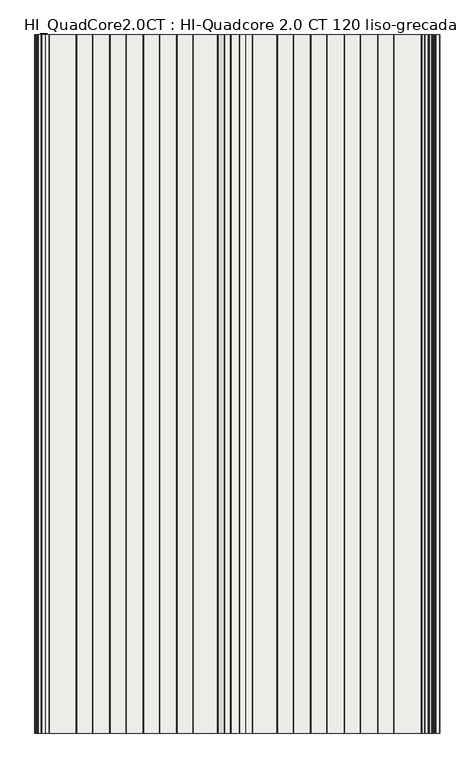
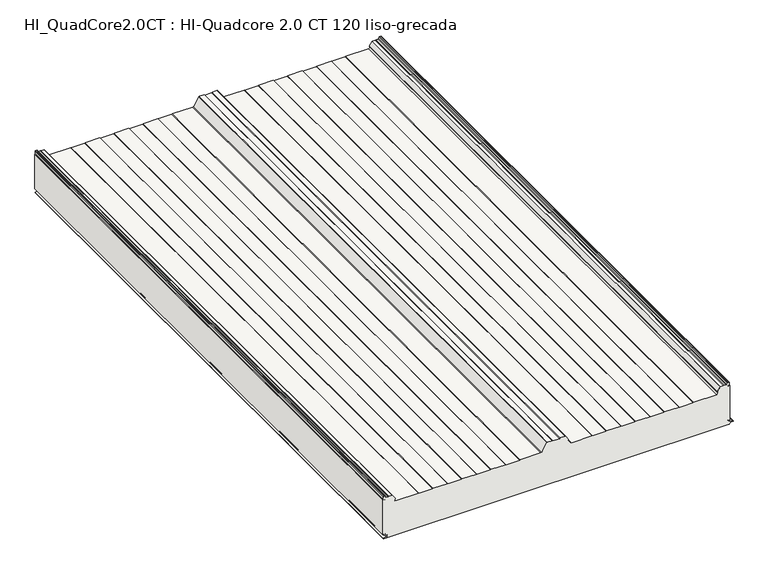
"""IFC4 building model written with IfcOpenShell, lengths in millimetres: slab geometry, HI_QuadCore2.0CT : HI-Quadcore 2.0 CT 120 liso-grecada."""

from ifc_helpers import new_model, si_unit, frame, origin, place, context, project, spatial, polyline, circle_curve, source, transform, mapped, element, save
from ifc_brep_helpers import plane_surface, cylinder_surface, revolved_surface, advanced_brep


def hi_quadcore2_0ct_hi_quadcore_2_0_ct_120_liso_grecada_d8a82dec(model_context):
    return source(origin(), model_context, "Body", "AdvancedBrep", [
        advanced_brep(
        [(5.1475465, 0.0, 135.7425833), (1.3824194, 0.0, 137.9163804), (0.0, 0.0, 137.9163804), (0.0, 0.0, 16.239302), (7.510215, 0.0, 16.239302), (7.510215, 0.0, 15.4391074), (3.6125693, 0.0, 15.4391074), (2.4319301, 0.0, 14.2584682), (3.4276302, 0.0, 13.0866965), (11.8278581, 0.0, 11.7547343), (11.7995989, 0.0, 4.4809044), (1.8467032, 0.0, 2.9844289), (2.0100062, 0.0, 0.8), (1147.9590685, 0.0, 0.8), (1149.3391392, 0.0, 2.1800708), (1152.5664905, 0.0, 5.8294074), (1160.7843221, 0.0, 6.8264698), (1160.7843299, 0.0, 9.4135286), (1150.8450446, 0.0, 10.6192254), (1147.8324398, 0.0, 14.0237344), (1147.2282701, 0.0, 15.44), (1142.7624398, 0.0, 15.44), (1142.7624398, 0.0, 16.239302), (1150.0, 0.0, 16.239302), (1150.0, 0.0, 137.9163804), (1148.8824194, 0.0, 137.9163804), (1145.1172924, 0.0, 135.7425833), (1144.7172924, 0.0, 136.4354036), (1148.5824194, 0.0, 138.6669358), (1148.5824194, 0.0, 148.1), (1147.4824194, 0.0, 149.2), (1143.8888221, 0.0, 149.2), (1142.8725546, 0.0, 148.5209518), (1141.0157992, 0.0, 144.0383476), (1138.8631598, 0.0, 142.6), (1132.1371875, 0.0, 142.6), (1130.4324194, 0.0, 141.8110374), (1128.7276514, 0.0, 142.6), (1119.4004541, 0.0, 142.6), (1118.4939153, 0.0, 142.1230469), (1109.1558806, 0.0, 128.5361221), (1109.356723, 0.0, 127.0692788), (1110.3070878, 0.0, 126.2744554), (1107.4852773, 0.0, 119.2), (1031.3816122, 0.0, 119.2), (1029.6495614, 0.0, 118.2), (984.6152775, 0.0, 118.2), (982.8832267, 0.0, 119.2), (935.3816122, 0.0, 119.2), (933.6495614, 0.0, 118.2), (888.6152775, 0.0, 118.2), (886.8832267, 0.0, 119.2), (839.3816122, 0.0, 119.2), (837.6495614, 0.0, 118.2), (792.6152775, 0.0, 118.2), (790.8832267, 0.0, 119.2), (743.3816122, 0.0, 119.2), (741.6495614, 0.0, 118.2), (696.6152775, 0.0, 118.2), (694.8832267, 0.0, 119.2), (625.9029123, 0.0, 119.2), (623.9344839, 0.0, 120.2833287), (605.9445057, 0.0, 148.6885573), (605.0152048, 0.0, 149.2), (588.8816122, 0.0, 149.2), (586.283536, 0.0, 147.7), (563.9813029, 0.0, 147.7), (561.3832267, 0.0, 149.2), (545.2496341, 0.0, 149.2), (544.3203331, 0.0, 148.6885573), (526.330355, 0.0, 120.2833287), (524.3619266, 0.0, 119.2), (455.3816122, 0.0, 119.2), (453.6495614, 0.0, 118.2), (408.6152775, 0.0, 118.2), (406.8832267, 0.0, 119.2), (359.3816122, 0.0, 119.2), (357.6495614, 0.0, 118.2), (312.6152775, 0.0, 118.2), (310.8832267, 0.0, 119.2), (263.3816122, 0.0, 119.2), (261.6495614, 0.0, 118.2), (216.6152775, 0.0, 118.2), (214.8832267, 0.0, 119.2), (167.3816122, 0.0, 119.2), (165.6495614, 0.0, 118.2), (120.6152775, 0.0, 118.2), (118.8832267, 0.0, 119.2), (42.7795617, 0.0, 119.2), (39.9577511, 0.0, 126.2744555), (40.9081159, 0.0, 127.0692788), (41.1089583, 0.0, 128.5361221), (31.7709236, 0.0, 142.1230469), (30.8643848, 0.0, 142.6), (21.5371875, 0.0, 142.6), (19.8324194, 0.0, 141.8110374), (18.1276514, 0.0, 142.6), (11.4016791, 0.0, 142.6), (9.2490397, 0.0, 144.0383476), (7.3922843, 0.0, 148.5209518), (6.3760168, 0.0, 149.2), (2.7824194, 0.0, 149.2), (1.6824194, 0.0, 148.1), (1.6824194, 0.0, 138.6669358), (5.5475465, 0.0, 136.4354036), (5.1475465, 2000.0, 135.7425833), (5.5475465, 2000.0, 136.4354036), (1.6824194, 2000.0, 138.6669358), (1.6824194, 2000.0, 148.1), (2.7824194, 2000.0, 149.2), (6.3760168, 2000.0, 149.2), (7.3922843, 2000.0, 148.5209518), (9.2490397, 2000.0, 144.0383476), (11.4016791, 2000.0, 142.6), (18.1276514, 2000.0, 142.6), (19.8324194, 2000.0, 141.8110374), (21.5371875, 2000.0, 142.6), (30.8643848, 2000.0, 142.6), (31.7709236, 2000.0, 142.1230469), (41.1089583, 2000.0, 128.5361221), (40.9081159, 2000.0, 127.0692788), (39.9577511, 2000.0, 126.2744555), (42.7795617, 2000.0, 119.2), (118.8832267, 2000.0, 119.2), (120.6152775, 2000.0, 118.2), (165.6495614, 2000.0, 118.2), (167.3816122, 2000.0, 119.2), (214.8832267, 2000.0, 119.2), (216.6152775, 2000.0, 118.2), (261.6495614, 2000.0, 118.2), (263.3816122, 2000.0, 119.2), (310.8832267, 2000.0, 119.2), (312.6152775, 2000.0, 118.2), (357.6495614, 2000.0, 118.2), (359.3816122, 2000.0, 119.2), (406.8832267, 2000.0, 119.2), (408.6152775, 2000.0, 118.2), (453.6495614, 2000.0, 118.2), (455.3816122, 2000.0, 119.2), (524.3619266, 2000.0, 119.2), (526.330355, 2000.0, 120.2833287), (544.3203331, 2000.0, 148.6885573), (545.2496341, 2000.0, 149.2), (561.3832267, 2000.0, 149.2), (563.9813029, 2000.0, 147.7), (586.283536, 2000.0, 147.7), (588.8816122, 2000.0, 149.2), (605.0152048, 2000.0, 149.2), (605.9445057, 2000.0, 148.6885573), (623.9344839, 2000.0, 120.2833287), (625.9029123, 2000.0, 119.2), (694.8832267, 2000.0, 119.2), (696.6152775, 2000.0, 118.2), (741.6495614, 2000.0, 118.2), (743.3816122, 2000.0, 119.2), (790.8832267, 2000.0, 119.2), (792.6152775, 2000.0, 118.2), (837.6495614, 2000.0, 118.2), (839.3816122, 2000.0, 119.2), (886.8832267, 2000.0, 119.2), (888.6152775, 2000.0, 118.2), (933.6495614, 2000.0, 118.2), (935.3816122, 2000.0, 119.2), (982.8832267, 2000.0, 119.2), (984.6152775, 2000.0, 118.2), (1029.6495614, 2000.0, 118.2), (1031.3816122, 2000.0, 119.2), (1107.4852773, 2000.0, 119.2), (1110.3070878, 2000.0, 126.2744554), (1109.356723, 2000.0, 127.0692788), (1109.1558806, 2000.0, 128.5361221), (1118.4939153, 2000.0, 142.1230469), (1119.4004541, 2000.0, 142.6), (1128.7276514, 2000.0, 142.6), (1130.4324194, 2000.0, 141.8110374), (1132.1371875, 2000.0, 142.6), (1138.8631598, 2000.0, 142.6), (1141.0157992, 2000.0, 144.0383476), (1142.8725546, 2000.0, 148.5209518), (1143.8888221, 2000.0, 149.2), (1147.4824194, 2000.0, 149.2), (1148.5824194, 2000.0, 148.1), (1148.5824194, 2000.0, 138.6669358), (1144.7172924, 2000.0, 136.4354036), (1145.1172924, 2000.0, 135.7425833), (1148.8824194, 2000.0, 137.9163804), (1150.0, 2000.0, 137.9163804), (1150.0, 2000.0, 16.239302), (1142.7624398, 2000.0, 16.239302), (1142.7624398, 2000.0, 15.44), (1147.2282701, 2000.0, 15.44), (1147.8324398, 2000.0, 14.0237344), (1150.8450446, 2000.0, 10.6192254), (1160.7843299, 2000.0, 9.4135286), (1160.7843221, 2000.0, 6.8264698), (1152.5664905, 2000.0, 5.8294074), (1149.3391392, 2000.0, 2.1800708), (1147.9590685, 2000.0, 0.8), (2.0100062, 2000.0, 0.8), (1.8467032, 2000.0, 2.9844289), (11.7995989, 2000.0, 4.4809044), (11.8278581, 2000.0, 11.7547343), (3.4273037, 2000.0, 13.0846342), (2.4319301, 2000.0, 14.2584682), (3.6125693, 2000.0, 15.4391074), (7.510215, 2000.0, 15.4391074), (7.510215, 2000.0, 16.239302), (0.0, 2000.0, 16.239302), (0.0, 2000.0, 137.9163804), (1.3824194, 2000.0, 137.9163804)],
        [
            (0, 1),
            (1, 2),
            (2, 3),
            (3, 4),
            (4, 5),
            (5, 6),
            (6, 7, circle_curve(frame((3.6125693, 0.0, 14.2584682), z_axis=(0.0, -1.0, 0.0), x_axis=(1.0, 0.0, 0.0)), 1.1806391)),
            (7, 8, circle_curve(frame((3.6121809, 0.0, 14.2524448), z_axis=(0.0, -1.0, 0.0), x_axis=(1.0, 0.0, 0.0)), 1.1802661)),
            (8, 9),
            (9, 10, circle_curve(frame((11.2524398, 0.0, 8.12), z_axis=(0.0, 1.0, 0.0), x_axis=(1.0, 0.0, 0.0)), 3.68)),
            (10, 11),
            (11, 12, circle_curve(frame((2.0100062, 0.0, 1.8983185), z_axis=(0.0, -1.0, 0.0), x_axis=(1.0, 0.0, 0.0)), 1.0983185)),
            (12, 13),
            (13, 14, circle_curve(frame((1147.9590685, 0.0, 2.1800708), z_axis=(0.0, -1.0, 0.0), x_axis=(1.0, 0.0, 0.0)), 1.3800708)),
            (14, 15, circle_curve(frame((1153.0160638, 0.0, 2.1800708), z_axis=(0.0, 1.0, 0.0), x_axis=(1.0, 0.0, 0.0)), 3.6769246)),
            (15, 16),
            (16, 17, circle_curve(frame((1160.5224398, 0.0, 8.12), z_axis=(0.0, -1.0, 0.0), x_axis=(1.0, 0.0, 0.0)), 1.3197737)),
            (17, 18),
            (18, 19, circle_curve(frame((1151.2624398, 0.0, 14.0237344), z_axis=(0.0, 1.0, 0.0), x_axis=(1.0, 0.0, 0.0)), 3.43)),
            (19, 20, circle_curve(frame((1145.8703839, 0.0, 14.0237344), z_axis=(0.0, -1.0, 0.0), x_axis=(1.0, 0.0, 0.0)), 1.9620559)),
            (20, 21),
            (21, 22),
            (22, 23),
            (23, 24),
            (24, 25),
            (25, 26),
            (26, 27),
            (27, 28),
            (28, 29),
            (29, 30, circle_curve(frame((1147.4824194, 0.0, 148.1), z_axis=(0.0, -1.0, 0.0), x_axis=(1.0, 0.0, 0.0)), 1.1)),
            (30, 31),
            (31, 32, circle_curve(frame((1143.8888221, 0.0, 148.1), z_axis=(0.0, -1.0, 0.0), x_axis=(1.0, 0.0, 0.0)), 1.1)),
            (32, 33),
            (33, 34, circle_curve(frame((1138.8631598, 0.0, 144.93), z_axis=(0.0, 1.0, 0.0), x_axis=(1.0, 0.0, 0.0)), 2.33)),
            (34, 35),
            (35, 36),
            (36, 37),
            (37, 38),
            (38, 39, circle_curve(frame((1119.4004541, 0.0, 141.5), z_axis=(0.0, -1.0, 0.0), x_axis=(1.0, 0.0, 0.0)), 1.1)),
            (39, 40),
            (40, 41, circle_curve(frame((1110.0624194, 0.0, 127.9130753), z_axis=(0.0, -1.0, 0.0), x_axis=(1.0, 0.0, 0.0)), 1.1)),
            (41, 42),
            (42, 43, circle_curve(frame((1107.4852773, 0.0, 123.3), z_axis=(0.0, 1.0, 0.0), x_axis=(1.0, 0.0, 0.0)), 4.1)),
            (43, 44),
            (44, 45),
            (45, 46),
            (46, 47),
            (47, 48),
            (48, 49),
            (49, 50),
            (50, 51),
            (51, 52),
            (52, 53),
            (53, 54),
            (54, 55),
            (55, 56),
            (56, 57),
            (57, 58),
            (58, 59),
            (59, 60),
            (60, 61, circle_curve(frame((625.9029123, 0.0, 121.53), z_axis=(0.0, 1.0, 0.0), x_axis=(1.0, 0.0, 0.0)), 2.33)),
            (61, 62),
            (62, 63, circle_curve(frame((605.0152048, 0.0, 148.1), z_axis=(0.0, -1.0, 0.0), x_axis=(1.0, 0.0, 0.0)), 1.1)),
            (63, 64),
            (64, 65),
            (65, 66),
            (66, 67),
            (67, 68),
            (68, 69, circle_curve(frame((545.2496341, 0.0, 148.1), z_axis=(0.0, -1.0, 0.0), x_axis=(1.0, 0.0, 0.0)), 1.1)),
            (69, 70),
            (70, 71, circle_curve(frame((524.3619266, 0.0, 121.53), z_axis=(0.0, 1.0, 0.0), x_axis=(1.0, 0.0, 0.0)), 2.33)),
            (71, 72),
            (72, 73),
            (73, 74),
            (74, 75),
            (75, 76),
            (76, 77),
            (77, 78),
            (78, 79),
            (79, 80),
            (80, 81),
            (81, 82),
            (82, 83),
            (83, 84),
            (84, 85),
            (85, 86),
            (86, 87),
            (87, 88),
            (88, 89, circle_curve(frame((42.7795617, 0.0, 123.3), z_axis=(0.0, 1.0, 0.0), x_axis=(1.0, 0.0, 0.0)), 4.1)),
            (89, 90),
            (90, 91, circle_curve(frame((40.2024195, 0.0, 127.9130752), z_axis=(0.0, -1.0, 0.0), x_axis=(1.0, 0.0, 0.0)), 1.1)),
            (91, 92),
            (92, 93, circle_curve(frame((30.8643848, 0.0, 141.5), z_axis=(0.0, -1.0, 0.0), x_axis=(1.0, 0.0, 0.0)), 1.1)),
            (93, 94),
            (94, 95),
            (95, 96),
            (96, 97),
            (97, 98, circle_curve(frame((11.4016791, 0.0, 144.93), z_axis=(0.0, 1.0, 0.0), x_axis=(1.0, 0.0, 0.0)), 2.33)),
            (98, 99),
            (99, 100, circle_curve(frame((6.3760168, 0.0, 148.1), z_axis=(0.0, -1.0, 0.0), x_axis=(1.0, 0.0, 0.0)), 1.1)),
            (100, 101),
            (101, 102, circle_curve(frame((2.7824194, 0.0, 148.1), z_axis=(0.0, -1.0, 0.0), x_axis=(1.0, 0.0, 0.0)), 1.1)),
            (102, 103),
            (103, 104),
            (104, 0),
            (105, 106),
            (106, 107),
            (107, 108),
            (108, 109, circle_curve(frame((2.7824194, 2000.0, 148.1), z_axis=(0.0, 1.0, 0.0), x_axis=(1.0, 0.0, 0.0)), 1.1)),
            (109, 110),
            (110, 111, circle_curve(frame((6.3760168, 2000.0, 148.1), z_axis=(0.0, 1.0, 0.0), x_axis=(1.0, 0.0, 0.0)), 1.1)),
            (111, 112),
            (112, 113, circle_curve(frame((11.4016791, 2000.0, 144.93), z_axis=(0.0, -1.0, 0.0), x_axis=(1.0, 0.0, 0.0)), 2.33)),
            (113, 114),
            (114, 115),
            (115, 116),
            (116, 117),
            (117, 118, circle_curve(frame((30.8643848, 2000.0, 141.5), z_axis=(0.0, 1.0, 0.0), x_axis=(1.0, 0.0, 0.0)), 1.1)),
            (118, 119),
            (119, 120, circle_curve(frame((40.2024195, 2000.0, 127.9130752), z_axis=(0.0, 1.0, 0.0), x_axis=(1.0, 0.0, 0.0)), 1.1)),
            (120, 121),
            (121, 122, circle_curve(frame((42.7795617, 2000.0, 123.3), z_axis=(0.0, -1.0, 0.0), x_axis=(1.0, 0.0, 0.0)), 4.1)),
            (122, 123),
            (123, 124),
            (124, 125),
            (125, 126),
            (126, 127),
            (127, 128),
            (128, 129),
            (129, 130),
            (130, 131),
            (131, 132),
            (132, 133),
            (133, 134),
            (134, 135),
            (135, 136),
            (136, 137),
            (137, 138),
            (138, 139),
            (139, 140, circle_curve(frame((524.3619266, 2000.0, 121.53), z_axis=(0.0, -1.0, 0.0), x_axis=(1.0, 0.0, 0.0)), 2.33)),
            (140, 141),
            (141, 142, circle_curve(frame((545.2496341, 2000.0, 148.1), z_axis=(0.0, 1.0, 0.0), x_axis=(1.0, 0.0, 0.0)), 1.1)),
            (142, 143),
            (143, 144),
            (144, 145),
            (145, 146),
            (146, 147),
            (147, 148, circle_curve(frame((605.0152048, 2000.0, 148.1), z_axis=(0.0, 1.0, 0.0), x_axis=(1.0, 0.0, 0.0)), 1.1)),
            (148, 149),
            (149, 150, circle_curve(frame((625.9029123, 2000.0, 121.53), z_axis=(0.0, -1.0, 0.0), x_axis=(1.0, 0.0, 0.0)), 2.33)),
            (150, 151),
            (151, 152),
            (152, 153),
            (153, 154),
            (154, 155),
            (155, 156),
            (156, 157),
            (157, 158),
            (158, 159),
            (159, 160),
            (160, 161),
            (161, 162),
            (162, 163),
            (163, 164),
            (164, 165),
            (165, 166),
            (166, 167),
            (167, 168, circle_curve(frame((1107.4852773, 2000.0, 123.3), z_axis=(0.0, -1.0, 0.0), x_axis=(1.0, 0.0, 0.0)), 4.1)),
            (168, 169),
            (169, 170, circle_curve(frame((1110.0624194, 2000.0, 127.9130753), z_axis=(0.0, 1.0, 0.0), x_axis=(1.0, 0.0, 0.0)), 1.1)),
            (170, 171),
            (171, 172, circle_curve(frame((1119.4004541, 2000.0, 141.5), z_axis=(0.0, 1.0, 0.0), x_axis=(1.0, 0.0, 0.0)), 1.1)),
            (172, 173),
            (173, 174),
            (174, 175),
            (175, 176),
            (176, 177, circle_curve(frame((1138.8631598, 2000.0, 144.93), z_axis=(0.0, -1.0, 0.0), x_axis=(1.0, 0.0, 0.0)), 2.33)),
            (177, 178),
            (178, 179, circle_curve(frame((1143.8888221, 2000.0, 148.1), z_axis=(0.0, 1.0, 0.0), x_axis=(1.0, 0.0, 0.0)), 1.1)),
            (179, 180),
            (180, 181, circle_curve(frame((1147.4824194, 2000.0, 148.1), z_axis=(0.0, 1.0, 0.0), x_axis=(1.0, 0.0, 0.0)), 1.1)),
            (181, 182),
            (182, 183),
            (183, 184),
            (184, 185),
            (185, 186),
            (186, 187),
            (187, 188),
            (188, 189),
            (189, 190),
            (190, 191, circle_curve(frame((1145.8703839, 2000.0, 14.0237344), z_axis=(0.0, 1.0, 0.0), x_axis=(1.0, 0.0, 0.0)), 1.9620559)),
            (191, 192, circle_curve(frame((1151.2624398, 2000.0, 14.0237344), z_axis=(0.0, -1.0, 0.0), x_axis=(1.0, 0.0, 0.0)), 3.43)),
            (192, 193),
            (193, 194, circle_curve(frame((1160.5224398, 2000.0, 8.12), z_axis=(0.0, 1.0, 0.0), x_axis=(1.0, 0.0, 0.0)), 1.3197737)),
            (194, 195),
            (195, 196, circle_curve(frame((1153.0160638, 2000.0, 2.1800708), z_axis=(0.0, -1.0, 0.0), x_axis=(1.0, 0.0, 0.0)), 3.6769246)),
            (196, 197, circle_curve(frame((1147.9590685, 2000.0, 2.1800708), z_axis=(0.0, 1.0, 0.0), x_axis=(1.0, 0.0, 0.0)), 1.3800708)),
            (197, 198),
            (198, 199, circle_curve(frame((2.0100062, 2000.0, 1.8983185), z_axis=(0.0, 1.0, 0.0), x_axis=(1.0, 0.0, 0.0)), 1.0983185)),
            (199, 200),
            (200, 201, circle_curve(frame((11.2524398, 2000.0, 8.12), z_axis=(0.0, -1.0, 0.0), x_axis=(1.0, 0.0, 0.0)), 3.68)),
            (201, 202),
            (202, 203, circle_curve(frame((3.6121809, 2000.0, 14.2524448), z_axis=(0.0, 1.0, 0.0), x_axis=(1.0, 0.0, 0.0)), 1.1802661)),
            (203, 204, circle_curve(frame((3.6125693, 2000.0, 14.2584682), z_axis=(0.0, 1.0, 0.0), x_axis=(1.0, 0.0, 0.0)), 1.1806391)),
            (204, 205),
            (205, 206),
            (206, 207),
            (207, 208),
            (208, 209),
            (209, 105),
            (0, 105),
            (209, 1),
            (208, 2),
            (207, 3),
            (186, 24),
            (23, 187),
            (185, 25),
            (184, 26),
            (183, 27),
            (182, 28),
            (181, 29),
            (180, 30),
            (179, 31),
            (178, 32),
            (177, 33),
            (176, 34),
            (175, 35),
            (174, 36),
            (173, 37),
            (172, 38),
            (171, 39),
            (170, 40),
            (169, 41),
            (168, 42),
            (167, 43),
            (166, 44),
            (165, 45),
            (164, 46),
            (163, 47),
            (162, 48),
            (161, 49),
            (160, 50),
            (159, 51),
            (158, 52),
            (157, 53),
            (156, 54),
            (155, 55),
            (154, 56),
            (153, 57),
            (152, 58),
            (151, 59),
            (150, 60),
            (149, 61),
            (148, 62),
            (147, 63),
            (146, 64),
            (145, 65),
            (144, 66),
            (143, 67),
            (142, 68),
            (141, 69),
            (140, 70),
            (139, 71),
            (138, 72),
            (137, 73),
            (136, 74),
            (135, 75),
            (134, 76),
            (133, 77),
            (132, 78),
            (131, 79),
            (130, 80),
            (129, 81),
            (128, 82),
            (127, 83),
            (126, 84),
            (125, 85),
            (124, 86),
            (123, 87),
            (122, 88),
            (121, 89),
            (120, 90),
            (119, 91),
            (118, 92),
            (117, 93),
            (116, 94),
            (115, 95),
            (114, 96),
            (113, 97),
            (112, 98),
            (111, 99),
            (110, 100),
            (109, 101),
            (108, 102),
            (107, 103),
            (106, 104),
            (22, 188),
            (206, 4),
            (205, 5),
            (204, 6),
            (203, 7),
            (202, 8),
            (201, 9),
            (200, 10),
            (199, 11),
            (198, 12),
            (197, 13),
            (196, 14),
            (195, 15),
            (194, 16),
            (193, 17),
            (192, 18),
            (191, 19),
            (190, 20),
            (189, 21),
        ],
        [
            plane_surface(frame((1.3824194, 0.0, 137.9163804), z_axis=(0.0, -1.0, 0.0), x_axis=(-0.8660254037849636, 0.0, 0.4999999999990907))),
            plane_surface(frame((1.3824194, 2000.0, 137.9163804), z_axis=(0.0, 1.0, 0.0), x_axis=(0.8660254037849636, 0.0, -0.4999999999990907))),
            plane_surface(frame((5.1475465, 0.0, 135.7425833), z_axis=(0.4999999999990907, 0.0, 0.8660254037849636), x_axis=(0.0, 1.0, 0.0))),
            plane_surface(frame((1.3824194, 0.0, 137.9163804), z_axis=(0.0, 0.0, 1.0), x_axis=(0.0, 1.0, 0.0))),
            plane_surface(frame((0.0, 0.0, 137.9163804), z_axis=(-1.0, 0.0, 0.0), x_axis=(0.0, 1.0, 0.0))),
            plane_surface(frame((1150.0, 0.0, 110.0), z_axis=(1.0, 0.0, 0.0), x_axis=(0.0, 1.0, 0.0))),
            plane_surface(frame((1150.0, 0.0, 137.9163804), z_axis=(0.0, 0.0, 1.0), x_axis=(0.0, 1.0, 0.0))),
            plane_surface(frame((1148.8824194, 0.0, 137.9163804), z_axis=(-0.4999999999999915, 0.0, 0.8660254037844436), x_axis=(0.0, 1.0, 0.0))),
            plane_surface(frame((1145.1172924, 0.0, 135.7425833), z_axis=(0.8660254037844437, 0.0, 0.49999999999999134), x_axis=(0.0, 1.0, 0.0))),
            plane_surface(frame((1144.7172924, 0.0, 136.4354036), z_axis=(0.4999999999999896, 0.0, -0.8660254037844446), x_axis=(0.0, 1.0, 0.0))),
            plane_surface(frame((1148.5824194, 0.0, 138.6669358), z_axis=(1.0, 0.0, 0.0), x_axis=(0.0, 1.0, 0.0))),
            cylinder_surface(frame((1147.4824194, 2000.0, 148.1), z_axis=(0.0, -1.0, 0.0), x_axis=(1.0, 0.0, 0.0)), 1.1),
            plane_surface(frame((1147.4824194, 0.0, 149.2), z_axis=(0.0, 0.0, 1.0), x_axis=(0.0, 1.0, 0.0))),
            cylinder_surface(frame((1143.8888221, 2000.0, 148.1), z_axis=(0.0, -1.0, 0.0), x_axis=(1.0, 0.0, 0.0)), 1.1),
            plane_surface(frame((1142.8725546, 0.0, 148.5209518), z_axis=(-0.9238795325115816, 0.0, 0.3826834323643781), x_axis=(0.0, 1.0, 0.0))),
            revolved_surface(polyline([(1141.1931597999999, 2000.0, 144.93), (1141.1931597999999, 0.0, 144.93)]), (1138.8631598, 2000.0, 144.93), (0.0, 1.0, 0.0)),
            plane_surface(frame((1138.8631598, 0.0, 142.6), z_axis=(0.0, 0.0, 1.0), x_axis=(0.0, 1.0, 0.0))),
            plane_surface(frame((1132.1371875, 0.0, 142.6), z_axis=(-0.4199999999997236, 0.0, 0.9075241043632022), x_axis=(0.0, 1.0, 0.0))),
            plane_surface(frame((1130.4324194, 0.0, 141.8110374), z_axis=(0.42000000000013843, 0.0, 0.9075241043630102), x_axis=(0.0, 1.0, 0.0))),
            plane_surface(frame((1128.7276514, 0.0, 142.6), z_axis=(0.0, 0.0, 1.0), x_axis=(0.0, 1.0, 0.0))),
            cylinder_surface(frame((1119.4004541, 2000.0, 141.5), z_axis=(0.0, -1.0, 0.0), x_axis=(1.0, 0.0, 0.0)), 1.1),
            plane_surface(frame((1118.4939153, 0.0, 142.1230469), z_axis=(-0.824126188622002, 0.0, 0.5664062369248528), x_axis=(0.0, 1.0, 0.0))),
            cylinder_surface(frame((1110.0624194, 2000.0, 127.9130753), z_axis=(0.0, -1.0, 0.0), x_axis=(1.0, 0.0, 0.0)), 1.1),
            plane_surface(frame((1109.356723, 0.0, 127.0692788), z_axis=(-0.6415422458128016, 0.0, -0.7670877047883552), x_axis=(0.0, 1.0, 0.0))),
            revolved_surface(polyline([(1111.5852773, 2000.0, 123.3), (1111.5852773, 0.0, 123.3)]), (1107.4852773, 2000.0, 123.3), (0.0, 1.0, 0.0)),
            plane_surface(frame((1107.4852773, 0.0, 119.2), z_axis=(0.0, 0.0, 1.0), x_axis=(0.0, 1.0, 0.0))),
            plane_surface(frame((1031.3816122, 0.0, 119.2), z_axis=(-0.4999999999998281, 0.0, 0.866025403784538), x_axis=(0.0, 1.0, 0.0))),
            plane_surface(frame((1029.6495614, 0.0, 118.2), z_axis=(0.0, 0.0, 1.0), x_axis=(0.0, 1.0, 0.0))),
            plane_surface(frame((984.6152775, 0.0, 118.2), z_axis=(0.499999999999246, 0.0, 0.866025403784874), x_axis=(0.0, 1.0, 0.0))),
            plane_surface(frame((982.8832267, 0.0, 119.2), z_axis=(0.0, 0.0, 1.0), x_axis=(0.0, 1.0, 0.0))),
            plane_surface(frame((935.3816122, 0.0, 119.2), z_axis=(-0.49999999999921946, 0.0, 0.8660254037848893), x_axis=(0.0, 1.0, 0.0))),
            plane_surface(frame((933.6495614, 0.0, 118.2), z_axis=(0.0, 0.0, 1.0), x_axis=(0.0, 1.0, 0.0))),
            plane_surface(frame((888.6152775, 0.0, 118.2), z_axis=(0.4999999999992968, 0.0, 0.8660254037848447), x_axis=(0.0, 1.0, 0.0))),
            plane_surface(frame((886.8832267, 0.0, 119.2), z_axis=(0.0, 0.0, 1.0), x_axis=(0.0, 1.0, 0.0))),
            plane_surface(frame((839.3816122, 0.0, 119.2), z_axis=(-0.4999999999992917, 0.0, 0.8660254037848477), x_axis=(0.0, 1.0, 0.0))),
            plane_surface(frame((837.6495614, 0.0, 118.2), z_axis=(0.0, 0.0, 1.0), x_axis=(0.0, 1.0, 0.0))),
            plane_surface(frame((792.6152775, 0.0, 118.2), z_axis=(0.49999999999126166, 0.0, 0.8660254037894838), x_axis=(0.0, 1.0, 0.0))),
            plane_surface(frame((790.8832267, 0.0, 119.2), z_axis=(0.0, 0.0, 1.0), x_axis=(0.0, 1.0, 0.0))),
            plane_surface(frame((743.3816122, 0.0, 119.2), z_axis=(-0.5000000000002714, 0.0, 0.8660254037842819), x_axis=(0.0, 1.0, 0.0))),
            plane_surface(frame((741.6495614, 0.0, 118.2), z_axis=(0.0, 0.0, 1.0), x_axis=(0.0, 1.0, 0.0))),
            plane_surface(frame((696.6152775, 0.0, 118.2), z_axis=(0.5000000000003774, 0.0, 0.8660254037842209), x_axis=(0.0, 1.0, 0.0))),
            plane_surface(frame((694.8832267, 0.0, 119.2), z_axis=(0.0, 0.0, 1.0), x_axis=(0.0, 1.0, 0.0))),
            revolved_surface(polyline([(628.2329123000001, 2000.0, 121.53), (628.2329123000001, 0.0, 121.53)]), (625.9029123, 2000.0, 121.53), (0.0, 1.0, 0.0)),
            plane_surface(frame((623.9344839, 0.0, 120.2833287), z_axis=(0.8448190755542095, 0.0, 0.5350520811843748), x_axis=(0.0, 1.0, 0.0))),
            cylinder_surface(frame((605.0152048, 2000.0, 148.1), z_axis=(0.0, -1.0, 0.0), x_axis=(1.0, 0.0, 0.0)), 1.1),
            plane_surface(frame((605.0152048, 0.0, 149.2), z_axis=(0.0, 0.0, 1.0), x_axis=(0.0, 1.0, 0.0))),
            plane_surface(frame((588.8816122, 0.0, 149.2), z_axis=(-0.4999999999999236, 0.0, 0.8660254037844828), x_axis=(0.0, 1.0, 0.0))),
            plane_surface(frame((586.283536, 0.0, 147.7), z_axis=(0.0, 0.0, 1.0), x_axis=(0.0, 1.0, 0.0))),
            plane_surface(frame((563.9813029, 0.0, 147.7), z_axis=(0.5000000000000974, 0.0, 0.8660254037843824), x_axis=(0.0, 1.0, 0.0))),
            plane_surface(frame((561.3832267, 0.0, 149.2), z_axis=(0.0, 0.0, 1.0), x_axis=(0.0, 1.0, 0.0))),
            cylinder_surface(frame((545.2496341, 2000.0, 148.1), z_axis=(0.0, -1.0, 0.0), x_axis=(1.0, 0.0, 0.0)), 1.1),
            plane_surface(frame((544.3203331, 0.0, 148.6885573), z_axis=(-0.8448190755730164, 0.0, 0.5350520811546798), x_axis=(0.0, 1.0, 0.0))),
            revolved_surface(polyline([(526.6919266, 2000.0, 121.53), (526.6919266, 0.0, 121.53)]), (524.3619266, 2000.0, 121.53), (0.0, 1.0, 0.0)),
            plane_surface(frame((524.3619266, 0.0, 119.2), z_axis=(0.0, 0.0, 1.0), x_axis=(0.0, 1.0, 0.0))),
            plane_surface(frame((455.3816122, 0.0, 119.2), z_axis=(-0.5000000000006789, 0.0, 0.8660254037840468), x_axis=(0.0, 1.0, 0.0))),
            plane_surface(frame((453.6495614, 0.0, 118.2), z_axis=(0.0, 0.0, 1.0), x_axis=(0.0, 1.0, 0.0))),
            plane_surface(frame((408.6152775, 0.0, 118.2), z_axis=(0.49999999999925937, 0.0, 0.8660254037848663), x_axis=(0.0, 1.0, 0.0))),
            plane_surface(frame((406.8832267, 0.0, 119.2), z_axis=(0.0, 0.0, 1.0), x_axis=(0.0, 1.0, 0.0))),
            plane_surface(frame((359.3816122, 0.0, 119.2), z_axis=(-0.500000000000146, 0.0, 0.8660254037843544), x_axis=(0.0, 1.0, 0.0))),
            plane_surface(frame((357.6495614, 0.0, 118.2), z_axis=(0.0, 0.0, 1.0), x_axis=(0.0, 1.0, 0.0))),
            plane_surface(frame((312.6152775, 0.0, 118.2), z_axis=(0.49999999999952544, 0.0, 0.8660254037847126), x_axis=(0.0, 1.0, 0.0))),
            plane_surface(frame((310.8832267, 0.0, 119.2), z_axis=(0.0, 0.0, 1.0), x_axis=(0.0, 1.0, 0.0))),
            plane_surface(frame((263.3816122, 0.0, 119.2), z_axis=(-0.4999999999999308, 0.0, 0.8660254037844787), x_axis=(0.0, 1.0, 0.0))),
            plane_surface(frame((261.6495614, 0.0, 118.2), z_axis=(0.0, 0.0, 1.0), x_axis=(0.0, 1.0, 0.0))),
            plane_surface(frame((216.6152775, 0.0, 118.2), z_axis=(0.500000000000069, 0.0, 0.866025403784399), x_axis=(0.0, 1.0, 0.0))),
            plane_surface(frame((214.8832267, 0.0, 119.2), z_axis=(0.0, 0.0, 1.0), x_axis=(0.0, 1.0, 0.0))),
            plane_surface(frame((167.3816122, 0.0, 119.2), z_axis=(-0.5000000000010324, 0.0, 0.8660254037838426), x_axis=(0.0, 1.0, 0.0))),
            plane_surface(frame((165.6495614, 0.0, 118.2), z_axis=(0.0, 0.0, 1.0), x_axis=(0.0, 1.0, 0.0))),
            plane_surface(frame((120.6152775, 0.0, 118.2), z_axis=(0.4999999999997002, 0.0, 0.8660254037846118), x_axis=(0.0, 1.0, 0.0))),
            plane_surface(frame((118.8832267, 0.0, 119.2), z_axis=(0.0, 0.0, 1.0), x_axis=(0.0, 1.0, 0.0))),
            revolved_surface(polyline([(46.879561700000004, 2000.0, 123.3), (46.879561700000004, 0.0, 123.3)]), (42.7795617, 2000.0, 123.3), (0.0, 1.0, 0.0)),
            plane_surface(frame((39.9577511, 0.0, 126.2744555), z_axis=(0.6415422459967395, 0.0, -0.7670877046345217), x_axis=(0.0, 1.0, 0.0))),
            cylinder_surface(frame((40.2024195, 2000.0, 127.9130752), z_axis=(0.0, -1.0, 0.0), x_axis=(1.0, 0.0, 0.0)), 1.1),
            plane_surface(frame((41.1089583, 0.0, 128.5361221), z_axis=(0.8241261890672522, 0.0, 0.5664062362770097), x_axis=(0.0, 1.0, 0.0))),
            cylinder_surface(frame((30.8643848, 2000.0, 141.5), z_axis=(0.0, -1.0, 0.0), x_axis=(1.0, 0.0, 0.0)), 1.1),
            plane_surface(frame((30.8643848, 0.0, 142.6), z_axis=(0.0, 0.0, 1.0), x_axis=(0.0, 1.0, 0.0))),
            plane_surface(frame((21.5371875, 0.0, 142.6), z_axis=(-0.4199999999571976, 0.0, 0.9075241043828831), x_axis=(0.0, 1.0, 0.0))),
            plane_surface(frame((19.8324194, 0.0, 141.8110374), z_axis=(0.4200000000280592, 0.0, 0.9075241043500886), x_axis=(0.0, 1.0, 0.0))),
            plane_surface(frame((18.1276514, 0.0, 142.6), z_axis=(0.0, 0.0, 1.0), x_axis=(0.0, 1.0, 0.0))),
            revolved_surface(polyline([(13.731679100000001, 2000.0, 144.93), (13.731679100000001, 0.0, 144.93)]), (11.4016791, 2000.0, 144.93), (0.0, 1.0, 0.0)),
            plane_surface(frame((9.2490397, 0.0, 144.0383476), z_axis=(0.9238795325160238, 0.0, 0.3826834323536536), x_axis=(0.0, 1.0, 0.0))),
            cylinder_surface(frame((6.3760168, 2000.0, 148.1), z_axis=(0.0, -1.0, 0.0), x_axis=(1.0, 0.0, 0.0)), 1.1),
            plane_surface(frame((6.3760168, 0.0, 149.2), z_axis=(0.0, 0.0, 1.0), x_axis=(0.0, 1.0, 0.0))),
            cylinder_surface(frame((2.7824194, 2000.0, 148.1), z_axis=(0.0, -1.0, 0.0), x_axis=(1.0, 0.0, 0.0)), 1.1),
            plane_surface(frame((1.6824194, 0.0, 148.1), z_axis=(-1.0, 0.0, 0.0), x_axis=(0.0, 1.0, 0.0))),
            plane_surface(frame((1.6824194, 0.0, 138.6669358), z_axis=(-0.49999999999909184, 0.0, -0.866025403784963), x_axis=(0.0, 1.0, 0.0))),
            plane_surface(frame((5.5475465, 0.0, 136.4354036), z_axis=(-0.866025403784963, 0.0, 0.4999999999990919), x_axis=(0.0, 1.0, 0.0))),
            plane_surface(frame((0.0, 0.0, 16.239302), z_axis=(0.0, 0.0, -1.0), x_axis=(0.0, 1.0, 0.0))),
            plane_surface(frame((7.510215, 0.0, 16.239302), z_axis=(-1.0, 0.0, 0.0), x_axis=(0.0, 1.0, 0.0))),
            plane_surface(frame((7.510215, 0.0, 15.4391074), z_axis=(0.0, 0.0, 1.0), x_axis=(0.0, 1.0, 0.0))),
            cylinder_surface(frame((3.6125693, 2000.0, 14.2584682), z_axis=(0.0, -1.0, 0.0), x_axis=(1.0, 0.0, 0.0)), 1.1806391),
            cylinder_surface(frame((3.6121809, 2000.0, 14.2524448), z_axis=(0.0, -1.0, 0.0), x_axis=(1.0, 0.0, 0.0)), 1.1802661),
            plane_surface(frame((3.4273037, 0.0, 13.0846342), z_axis=(-0.1563636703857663, 0.0, -0.9876995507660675), x_axis=(0.0, 1.0, 0.0))),
            revolved_surface(polyline([(14.9324398, 2000.0, 8.12), (14.9324398, 0.0, 8.12)]), (11.2524398, 2000.0, 8.12), (0.0, 1.0, 0.0)),
            plane_surface(frame((11.7995989, 0.0, 4.4809044), z_axis=(-0.14868453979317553, 0.0, 0.9888846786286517), x_axis=(0.0, 1.0, 0.0))),
            cylinder_surface(frame((2.0100062, 2000.0, 1.8983185), z_axis=(0.0, -1.0, 0.0), x_axis=(1.0, 0.0, 0.0)), 1.0983185),
            plane_surface(frame((2.0100062, 0.0, 0.8), z_axis=(0.0, 0.0, -1.0), x_axis=(0.0, 1.0, 0.0))),
            cylinder_surface(frame((1147.9590685, 2000.0, 2.1800708), z_axis=(0.0, -1.0, 0.0), x_axis=(1.0, 0.0, 0.0)), 1.3800708),
            revolved_surface(polyline([(1156.6929883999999, 2000.0, 2.1800708), (1156.6929883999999, 0.0, 2.1800708)]), (1153.0160638, 2000.0, 2.1800708), (0.0, 1.0, 0.0)),
            plane_surface(frame((1152.5664905, 0.0, 5.8294074), z_axis=(0.12044584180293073, 0.0, -0.9927198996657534), x_axis=(0.0, 1.0, 0.0))),
            cylinder_surface(frame((1160.5224398, 2000.0, 8.12), z_axis=(0.0, -1.0, 0.0), x_axis=(1.0, 0.0, 0.0)), 1.3197737),
            plane_surface(frame((1160.7843299, 0.0, 9.4135286), z_axis=(0.12042339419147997, 0.0, 0.9927226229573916), x_axis=(0.0, 1.0, 0.0))),
            revolved_surface(polyline([(1154.6924398, 2000.0, 14.0237344), (1154.6924398, 0.0, 14.0237344)]), (1151.2624398, 2000.0, 14.0237344), (0.0, 1.0, 0.0)),
            cylinder_surface(frame((1145.8703839, 2000.0, 14.0237344), z_axis=(0.0, -1.0, 0.0), x_axis=(1.0, 0.0, 0.0)), 1.9620559),
            plane_surface(frame((1147.2282701, 0.0, 15.44), z_axis=(0.0, 0.0, 1.0), x_axis=(0.0, 1.0, 0.0))),
            plane_surface(frame((1142.7624398, 0.0, 15.44), z_axis=(1.0, 0.0, 0.0), x_axis=(0.0, 1.0, 0.0))),
        ],
        [
            (0, [[1, 2, 3, 4, 5, 6, 7, 8, 9, 10, 11, 12, 13, 14, 15, 16, 17, 18, 19, 20, 21, 22, 23, 24, 25, 26, 27, 28, 29, 30, 31, 32, 33, 34, 35, 36, 37, 38, 39, 40, 41, 42, 43, 44, 45, 46, 47, 48, 49, 50, 51, 52, 53, 54, 55, 56, 57, 58, 59, 60, 61, 62, 63, 64, 65, 66, 67, 68, 69, 70, 71, 72, 73, 74, 75, 76, 77, 78, 79, 80, 81, 82, 83, 84, 85, 86, 87, 88, 89, 90, 91, 92, 93, 94, 95, 96, 97, 98, 99, 100, 101, 102, 103, 104, 105]]),
            (1, [[106, 107, 108, 109, 110, 111, 112, 113, 114, 115, 116, 117, 118, 119, 120, 121, 122, 123, 124, 125, 126, 127, 128, 129, 130, 131, 132, 133, 134, 135, 136, 137, 138, 139, 140, 141, 142, 143, 144, 145, 146, 147, 148, 149, 150, 151, 152, 153, 154, 155, 156, 157, 158, 159, 160, 161, 162, 163, 164, 165, 166, 167, 168, 169, 170, 171, 172, 173, 174, 175, 176, 177, 178, 179, 180, 181, 182, 183, 184, 185, 186, 187, 188, 189, 190, 191, 192, 193, 194, 195, 196, 197, 198, 199, 200, 201, 202, 203, 204, 205, 206, 207, 208, 209, 210]]),
            (2, [[-1, 211, -210, 212]]),
            (3, [[-2, -212, -209, 213]]),
            (4, [[-213, -208, 214, -3]]),
            (5, [[215, -24, 216, -187]]),
            (6, [[-25, -215, -186, 217]]),
            (7, [[-26, -217, -185, 218]]),
            (8, [[-27, -218, -184, 219]]),
            (9, [[-28, -219, -183, 220]]),
            (10, [[-29, -220, -182, 221]]),
            (11, [[-30, -221, -181, 222]]),
            (12, [[-31, -222, -180, 223]]),
            (13, [[-32, -223, -179, 224]]),
            (14, [[-33, -224, -178, 225]]),
            (15, [[-34, -225, -177, 226]]),
            (16, [[-35, -226, -176, 227]]),
            (17, [[-36, -227, -175, 228]]),
            (18, [[-37, -228, -174, 229]]),
            (19, [[-38, -229, -173, 230]]),
            (20, [[-39, -230, -172, 231]]),
            (21, [[-40, -231, -171, 232]]),
            (22, [[-41, -232, -170, 233]]),
            (23, [[-42, -233, -169, 234]]),
            (24, [[-43, -234, -168, 235]]),
            (25, [[-44, -235, -167, 236]]),
            (26, [[-45, -236, -166, 237]]),
            (27, [[-46, -237, -165, 238]]),
            (28, [[-47, -238, -164, 239]]),
            (29, [[-48, -239, -163, 240]]),
            (30, [[-49, -240, -162, 241]]),
            (31, [[-50, -241, -161, 242]]),
            (32, [[-51, -242, -160, 243]]),
            (33, [[-52, -243, -159, 244]]),
            (34, [[-53, -244, -158, 245]]),
            (35, [[-54, -245, -157, 246]]),
            (36, [[-55, -246, -156, 247]]),
            (37, [[-56, -247, -155, 248]]),
            (38, [[-57, -248, -154, 249]]),
            (39, [[-58, -249, -153, 250]]),
            (40, [[-59, -250, -152, 251]]),
            (41, [[-60, -251, -151, 252]]),
            (42, [[-61, -252, -150, 253]]),
            (43, [[-62, -253, -149, 254]]),
            (44, [[-63, -254, -148, 255]]),
            (45, [[-64, -255, -147, 256]]),
            (46, [[-65, -256, -146, 257]]),
            (47, [[-66, -257, -145, 258]]),
            (48, [[-67, -258, -144, 259]]),
            (49, [[-68, -259, -143, 260]]),
            (50, [[-69, -260, -142, 261]]),
            (51, [[-70, -261, -141, 262]]),
            (52, [[-71, -262, -140, 263]]),
            (53, [[-72, -263, -139, 264]]),
            (54, [[-73, -264, -138, 265]]),
            (55, [[-74, -265, -137, 266]]),
            (56, [[-75, -266, -136, 267]]),
            (57, [[-76, -267, -135, 268]]),
            (58, [[-77, -268, -134, 269]]),
            (59, [[-78, -269, -133, 270]]),
            (60, [[-79, -270, -132, 271]]),
            (61, [[-80, -271, -131, 272]]),
            (62, [[-81, -272, -130, 273]]),
            (63, [[-82, -273, -129, 274]]),
            (64, [[-83, -274, -128, 275]]),
            (65, [[-84, -275, -127, 276]]),
            (66, [[-85, -276, -126, 277]]),
            (67, [[-86, -277, -125, 278]]),
            (68, [[-87, -278, -124, 279]]),
            (69, [[-88, -279, -123, 280]]),
            (70, [[-89, -280, -122, 281]]),
            (71, [[-90, -281, -121, 282]]),
            (72, [[-91, -282, -120, 283]]),
            (73, [[-92, -283, -119, 284]]),
            (74, [[-93, -284, -118, 285]]),
            (75, [[-94, -285, -117, 286]]),
            (76, [[-95, -286, -116, 287]]),
            (77, [[-96, -287, -115, 288]]),
            (78, [[-97, -288, -114, 289]]),
            (79, [[-98, -289, -113, 290]]),
            (80, [[-99, -290, -112, 291]]),
            (81, [[-100, -291, -111, 292]]),
            (82, [[-101, -292, -110, 293]]),
            (83, [[-102, -293, -109, 294]]),
            (84, [[-103, -294, -108, 295]]),
            (85, [[-104, -295, -107, 296]]),
            (86, [[-105, -296, -106, -211]]),
            (87, [[-216, -23, 297, -188]]),
            (87, [[-214, -207, 298, -4]]),
            (88, [[-5, -298, -206, 299]]),
            (89, [[-6, -299, -205, 300]]),
            (90, [[-7, -300, -204, 301]]),
            (91, [[-8, -301, -203, 302]]),
            (92, [[-9, -302, -202, 303]]),
            (93, [[-10, -303, -201, 304]]),
            (94, [[-11, -304, -200, 305]]),
            (95, [[-12, -305, -199, 306]]),
            (96, [[-13, -306, -198, 307]]),
            (97, [[-14, -307, -197, 308]]),
            (98, [[-15, -308, -196, 309]]),
            (99, [[-16, -309, -195, 310]]),
            (100, [[-17, -310, -194, 311]]),
            (101, [[-18, -311, -193, 312]]),
            (102, [[-19, -312, -192, 313]]),
            (103, [[-20, -313, -191, 314]]),
            (104, [[-21, -314, -190, 315]]),
            (105, [[-22, -315, -189, -297]]),
        ],
    ),
    ])


if __name__ == "__main__":
    model = new_model("IFC4")
    model_context = context("Model", 3, world=origin())
    ifc_project = project(units=[si_unit("LENGTHUNIT", "METRE", prefix="MILLI")], contexts=[model_context])
    site = spatial("IfcSite", under=ifc_project)
    building = spatial("IfcBuilding", under=site)
    placement = place(None, origin())
    hi_quadcore2_0ct_hi_quadcore_2_0_ct_120_liso_grecada_shape = hi_quadcore2_0ct_hi_quadcore_2_0_ct_120_liso_grecada_d8a82dec(model_context)
    element("IfcSlab", 1, ObjectType="HI_QuadCore2.0CT : HI-Quadcore 2.0 CT 120 liso-grecada", at=placement, inside=building, context=model_context, shape_type="MappedRepresentation", body=[
        mapped(hi_quadcore2_0ct_hi_quadcore_2_0_ct_120_liso_grecada_shape, transform((0.0, 0.0, 0.0), x_axis=(1.0, 0.0, 0.0), y_axis=(0.0, 1.0, 0.0), z_axis=(0.0, 0.0, 1.0))),
    ])
    save(model, "model.ifc")
